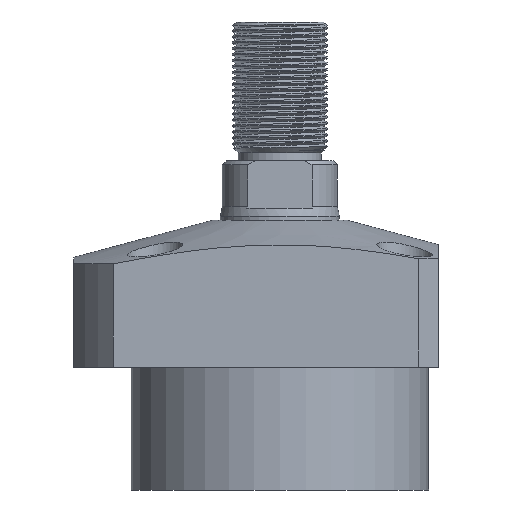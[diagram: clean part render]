
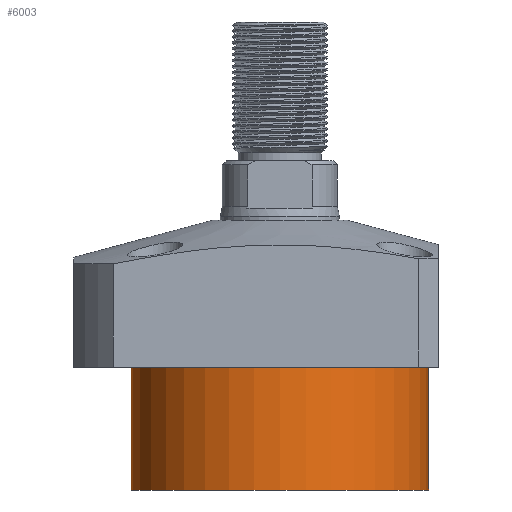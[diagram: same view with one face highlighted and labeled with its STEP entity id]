
A CAD part, front view. The second image highlights one B-rep face of the part: STEP entity #6003.
In plain terms, the highlighted cylindrical face has radius 37.5 mm (diameter 75 mm), a partial arc.
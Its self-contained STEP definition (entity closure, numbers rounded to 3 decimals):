
#261 = DIRECTION ( 'NONE',  ( 0., 0., 1. ) ) ;
#561 = VECTOR ( 'NONE', #7828, 1000. ) ;
#632 = CARTESIAN_POINT ( 'NONE',  ( 37.5, 0., -49.5 ) ) ;
#814 = DIRECTION ( 'NONE',  ( 1., 0., 0. ) ) ;
#1062 = ORIENTED_EDGE ( 'NONE', *, *, #7181, .F. ) ;
#1230 = ORIENTED_EDGE ( 'NONE', *, *, #3205, .T. ) ;
#1276 = ORIENTED_EDGE ( 'NONE', *, *, #2627, .T. ) ;
#1291 = EDGE_CURVE ( 'NONE', #5405, #1646, #7293, .T. ) ;
#1365 = DIRECTION ( 'NONE',  ( 0., 0., 1. ) ) ;
#1501 = ORIENTED_EDGE ( 'NONE', *, *, #1291, .F. ) ;
#1624 = CARTESIAN_POINT ( 'NONE',  ( -37.5, 0., -18.5 ) ) ;
#1646 = VERTEX_POINT ( 'NONE', #7113 ) ;
#2591 = DIRECTION ( 'NONE',  ( 0., 0., -1. ) ) ;
#2627 = EDGE_CURVE ( 'NONE', #3907, #2674, #7865, .T. ) ;
#2674 = VERTEX_POINT ( 'NONE', #1624 ) ;
#3072 = LINE ( 'NONE', #5341, #561 ) ;
#3114 = DIRECTION ( 'NONE',  ( -1., 0., 0. ) ) ;
#3205 = EDGE_CURVE ( 'NONE', #5405, #3907, #3072, .T. ) ;
#3398 = CARTESIAN_POINT ( 'NONE',  ( 37.5, 0., -18.5 ) ) ;
#3408 = VECTOR ( 'NONE', #1365, 1000. ) ;
#3540 = DIRECTION ( 'NONE',  ( 1., 0., 0. ) ) ;
#3549 = AXIS2_PLACEMENT_3D ( 'NONE', #4484, #2591, #3114 ) ;
#3677 = EDGE_LOOP ( 'NONE', ( #1062, #1501, #1230, #1276 ) ) ;
#3907 = VERTEX_POINT ( 'NONE', #3398 ) ;
#4141 = DIRECTION ( 'NONE',  ( 0., 0., -1. ) ) ;
#4484 = CARTESIAN_POINT ( 'NONE',  ( 0., 0., -49.5 ) ) ;
#5266 = CARTESIAN_POINT ( 'NONE',  ( 0., 0., -49.5 ) ) ;
#5341 = CARTESIAN_POINT ( 'NONE',  ( 37.5, 0., -49.5 ) ) ;
#5405 = VERTEX_POINT ( 'NONE', #632 ) ;
#5955 = AXIS2_PLACEMENT_3D ( 'NONE', #5266, #261, #814 ) ;
#6003 = ADVANCED_FACE ( 'NONE', ( #7616 ), #6085, .T. ) ;
#6085 = CYLINDRICAL_SURFACE ( 'NONE', #5955, 37.5 ) ;
#6557 = LINE ( 'NONE', #7579, #3408 ) ;
#6598 = CARTESIAN_POINT ( 'NONE',  ( 0., 0., -18.5 ) ) ;
#7113 = CARTESIAN_POINT ( 'NONE',  ( -37.5, 0., -49.5 ) ) ;
#7181 = EDGE_CURVE ( 'NONE', #1646, #2674, #6557, .T. ) ;
#7293 = CIRCLE ( 'NONE', #3549, 37.5 ) ;
#7430 = AXIS2_PLACEMENT_3D ( 'NONE', #6598, #4141, #3540 ) ;
#7579 = CARTESIAN_POINT ( 'NONE',  ( -37.5, 0., -49.5 ) ) ;
#7616 = FACE_OUTER_BOUND ( 'NONE', #3677, .T. ) ;
#7828 = DIRECTION ( 'NONE',  ( 0., 0., 1. ) ) ;
#7865 = CIRCLE ( 'NONE', #7430, 37.5 ) ;
